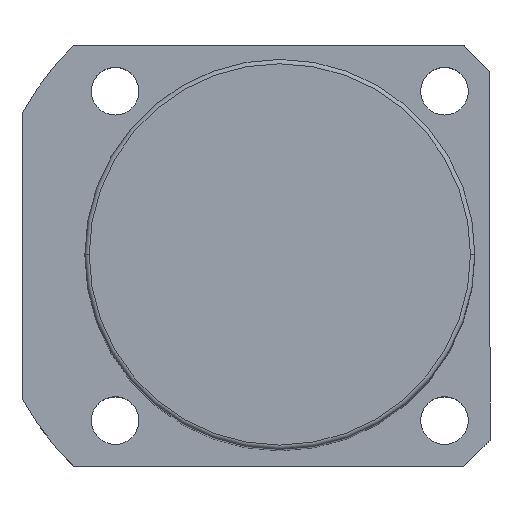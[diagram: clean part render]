
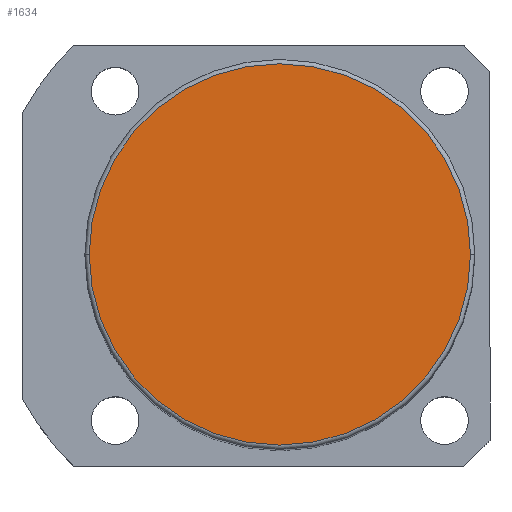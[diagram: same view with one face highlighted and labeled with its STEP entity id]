
A CAD part, top view. The second image highlights one B-rep face of the part: STEP entity #1634.
In plain terms, the highlighted planar face has unit normal (0, 0, 1).
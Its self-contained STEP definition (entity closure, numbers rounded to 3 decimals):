
#12 = FACE_OUTER_BOUND ( 'NONE', #1296, .T. ) ;
#104 = VERTEX_POINT ( 'NONE', #1068 ) ;
#138 = DIRECTION ( 'NONE',  ( 1., 0., 0. ) ) ;
#215 = AXIS2_PLACEMENT_3D ( 'NONE', #1071, #1367, #993 ) ;
#265 = ORIENTED_EDGE ( 'NONE', *, *, #1243, .T. ) ;
#417 = CARTESIAN_POINT ( 'NONE',  ( 0., 0., 206.5 ) ) ;
#439 = CIRCLE ( 'NONE', #1274, 44. ) ;
#693 = DIRECTION ( 'NONE',  ( 0., 0., 1. ) ) ;
#782 = DIRECTION ( 'NONE',  ( 0., 0., 1. ) ) ;
#794 = CARTESIAN_POINT ( 'NONE',  ( 0., 0., 206.5 ) ) ;
#993 = DIRECTION ( 'NONE',  ( 1., 0., 0. ) ) ;
#1068 = CARTESIAN_POINT ( 'NONE',  ( -44., 0., 206.5 ) ) ;
#1071 = CARTESIAN_POINT ( 'NONE',  ( 0., 0., 206.5 ) ) ;
#1106 = PLANE ( 'NONE',  #1559 ) ;
#1177 = ORIENTED_EDGE ( 'NONE', *, *, #1264, .T. ) ;
#1243 = EDGE_CURVE ( 'NONE', #1801, #104, #439, .T. ) ;
#1264 = EDGE_CURVE ( 'NONE', #104, #1801, #1685, .T. ) ;
#1274 = AXIS2_PLACEMENT_3D ( 'NONE', #794, #782, #1476 ) ;
#1296 = EDGE_LOOP ( 'NONE', ( #265, #1177 ) ) ;
#1367 = DIRECTION ( 'NONE',  ( 0., 0., 1. ) ) ;
#1476 = DIRECTION ( 'NONE',  ( 1., 0., 0. ) ) ;
#1559 = AXIS2_PLACEMENT_3D ( 'NONE', #417, #693, #138 ) ;
#1634 = ADVANCED_FACE ( 'NONE', ( #12 ), #1106, .T. ) ;
#1685 = CIRCLE ( 'NONE', #215, 44. ) ;
#1743 = CARTESIAN_POINT ( 'NONE',  ( 44., 0., 206.5 ) ) ;
#1801 = VERTEX_POINT ( 'NONE', #1743 ) ;
